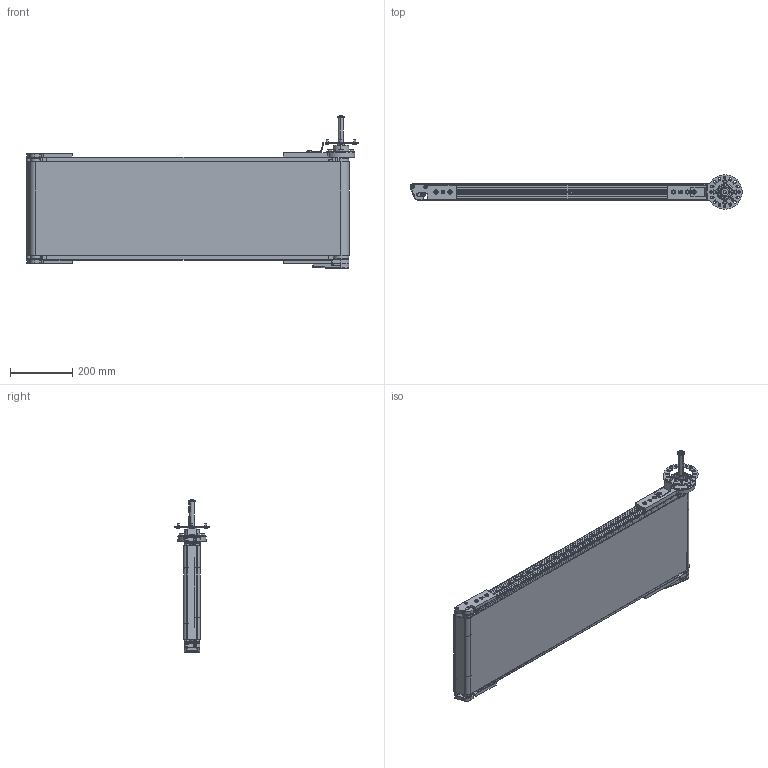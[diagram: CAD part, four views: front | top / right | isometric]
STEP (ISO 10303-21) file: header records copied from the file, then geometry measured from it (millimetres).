
FILE_DESCRIPTION (( 'STEP AP214' ), '1' );
FILE_NAME ('NASTRO_RETTILINEO_TAPPETO.step', '2026-04-20T06:34:22', ( 'Utente Windows' ), ( '' ), 'SwSTEP 2.0', 'SolidWorks 2024', '' );
FILE_SCHEMA (( 'AUTOMOTIVE_DESIGN' ));
Length unit declared in the file: millimetre
Products named in the file (57): BLOCCO_TRAINO_50_STANDARD; 084.301.000 VITI ALUSIC_084.301.003; 084.802.017_084.802.017; CHIAVETTE_A 6x6x30 UNI 6604-69; 084.810.001; PERNO_INF_50_PENNA; VITI TCEI UNI 5931_M4x25 UNI 5931; 084.807.015_084.807.002; 084.802.071; VITE_DADO_M5X12; TELAIO_50_STANDARD_Default<A macchina>; VITI TSEI UNI 5933 INOX_0412UNI5933A2; 084.303.001; RONDELLE FASCIA LARGA UNI 6593_6.4x24 UNI 6593; BLOCCO_RINVIO_50_PENNA_DX; TAPPETO_STANDARD_1PENNA; RONDELLE UNI 6592_5.3x10 UNI 6592; VITI TCEI UNI 5931_M6x20 UNI 5931; RULLO_SUP_50_PENNA; RULLO_INF_50_PENNA; 12UNI7435; 084.807.001_084.807.001; 084.811.010; BLOCCO_RINVIO_50_PENNA_SX; 084.808.013; 084.302.016; LAMIERA_1_PENNA; NASTRO_RETTILINEO_TAPPETO; P210RLM-0816-77; CHIAVETTE_A 5x5x20 UNI 6604-69; 084.301.000 VITI ALUSIC_084.301.036; 084.802.060_Default<A macchina>; VITI TSEI UNI 5933_M4x12 UNI 5933; VITI TE UNI 5739_M8x12 UNI 5739; 084.827.040; 084.802.062; 084.302.000 DADI ALUSIC 13x13-1_084.302.007; RULLO_50_Default<A macchina>; PERNO_SUP_95_PENNA; BLOCCO_PERNO_50_WA30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
Assembly tree (98 placements, depth 4):
  NASTRO_RETTILINEO_TAPPETO
    TAPPETO_STANDARD_1PENNA
    TELAIO_50_STANDARD_Default<A macchina>
    LAMIERA_1_PENNA
    RULLO_50_Default<A macchina>
    BLOCCO_PERNO_50_WA30
      084.810.001
      084.811.010
      RONDELLE FASCIA LARGA UNI 6593_6.4x24 UNI 6593
      VITI TE UNI 5739_M6x12 UNI 5739
      CHIAVETTE_A 5x5x20 UNI 6604-69
      CHIAVETTE_A 6x6x30 UNI 6604-69  x2
    BLOCCO_TRAINO_50_STANDARD_WA30_DX
      084.807.001_084.807.001
      084.802.034_084.802.034
      084.301.000 VITI ALUSIC_084.301.003  x2
      084.302.000 DADI ALUSIC 13x13-1_084.302.004  x2
      BLOCCO_BRACCIO_WA30_WA30
        084.808.013
        084.802.062
        084.802.060_Default<A macchina>
        VITI TE UNI 5739_M8x12 UNI 5739  x4
        VITI TE UNI 5739_M6x12 UNI 5739  x4
      084.802.065_Default<A macchina>
      VITI TCEI UNI 5931_M4x25 UNI 5931  x2
    BLOCCO_PERNO_50_RINVIO
      084.811.004
      084.810.001
    BLOCCO_TRAINO_50_STANDARD
      084.807.002_084.807.002
      084.802.017_084.802.017
      084.301.000 VITI ALUSIC_084.301.003  x2
      084.302.000 DADI ALUSIC 13x13-1_084.302.004  x2
      VITI TSEI UNI 5933_M4x12 UNI 5933  x4
      084.802.071
      VITI TSEI UNI 5933 INOX_0412UNI5933A2  x2
    RULLO_SUP_50_PENNA
    BLOCCO_RINVIO_50_PENNA_SX
      084.807.016_084.807.002
      084.809.007
      084.802.036
      VITI TCEI UNI 5931_M6x30 UNI 5931
      RONDELLE UNI 6592_5.3x10 UNI 6592  x2
      VITI TCEI UNI 5931_M6x20 UNI 5931
      084.301.000 VITI ALUSIC_084.301.036
      084.302.016
      084.301.000 VITI ALUSIC_084.301.003  x2
      VITI TE UNI 5739 INOX_M5x12 UNI 5739 INOX  x2
      12UNI7435
      08UNI7435  x3
    BLOCCO_RINVIO_50_PENNA_DX
      084.802.036
      084.807.015_084.807.002
      VITI TCEI UNI 5931_M6x30 UNI 5931
      084.827.040
      VITI TCEI UNI 5931_M6x20 UNI 5931
      084.301.000 VITI ALUSIC_084.301.036
      084.302.016
      084.301.000 VITI ALUSIC_084.301.003  x2
      08UNI7435
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Bounding box: 1064.79 x 109.58 x 490.5 mm (x, y, z)
Volume: 4229159.1 mm3; surface area: 3901734.4 mm2
Topology: 113 solids, 116 shells, 4272 faces, 10944 edges, 6997 vertices
Faces by surface type: plane 1933, cylinder 1462, cone 385, torus 241, bspline 219, sphere 32
Entity records: 114613 total; most frequent: CARTESIAN_POINT 32690, ORIENTED_EDGE 17228, DIRECTION 16226, EDGE_CURVE 8614, AXIS2_PLACEMENT_3D 5748, VERTEX_POINT 5538, LINE 4730, VECTOR 4730
